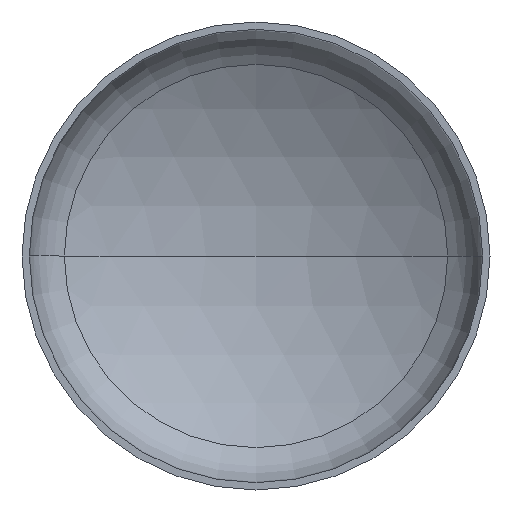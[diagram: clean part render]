
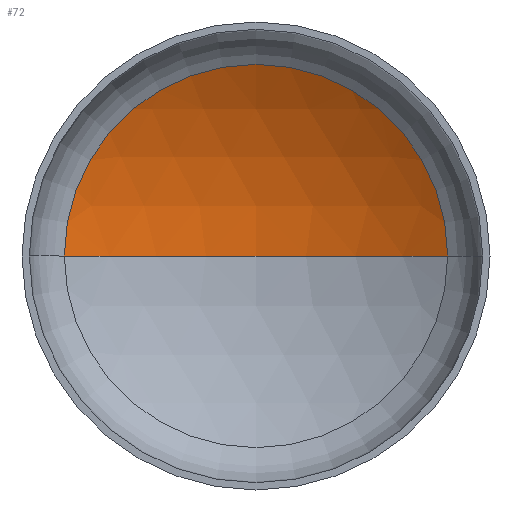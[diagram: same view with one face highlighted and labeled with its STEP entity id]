
A CAD part, front view. The second image highlights one B-rep face of the part: STEP entity #72.
In plain terms, the highlighted spherical face has radius 2400 mm.
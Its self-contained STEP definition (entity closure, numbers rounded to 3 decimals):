
#6 = VERTEX_POINT ( 'NONE', #274 ) ;
#18 = CARTESIAN_POINT ( 'NONE',  ( 1228.454, 545.173, 0. ) ) ;
#21 = DIRECTION ( 'NONE',  ( 0., 0., -1. ) ) ;
#27 = EDGE_LOOP ( 'NONE', ( #126, #200, #60 ) ) ;
#35 = CARTESIAN_POINT ( 'NONE',  ( 0., -1516.599, 0. ) ) ;
#41 = AXIS2_PLACEMENT_3D ( 'NONE', #223, #224, #234 ) ;
#45 = AXIS2_PLACEMENT_3D ( 'NONE', #35, #21, #255 ) ;
#46 = VERTEX_POINT ( 'NONE', #373 ) ;
#53 = AXIS2_PLACEMENT_3D ( 'NONE', #215, #216, #217 ) ;
#60 = ORIENTED_EDGE ( 'NONE', *, *, #102, .T. ) ;
#72 = ADVANCED_FACE ( 'NONE', ( #77 ), #195, .F. ) ;
#77 = FACE_OUTER_BOUND ( 'NONE', #27, .T. ) ;
#78 = AXIS2_PLACEMENT_3D ( 'NONE', #365, #271, #266 ) ;
#102 = EDGE_CURVE ( 'NONE', #134, #6, #176, .T. ) ;
#126 = ORIENTED_EDGE ( 'NONE', *, *, #159, .F. ) ;
#134 = VERTEX_POINT ( 'NONE', #18 ) ;
#136 = EDGE_CURVE ( 'NONE', #46, #134, #292, .T. ) ;
#159 = EDGE_CURVE ( 'NONE', #46, #6, #167, .T. ) ;
#167 = CIRCLE ( 'NONE', #41, 2400. ) ;
#176 = CIRCLE ( 'NONE', #53, 1228.454 ) ;
#195 = SPHERICAL_SURFACE ( 'NONE', #78, 2400. ) ;
#200 = ORIENTED_EDGE ( 'NONE', *, *, #136, .T. ) ;
#215 = CARTESIAN_POINT ( 'NONE',  ( 0., 545.173, 0. ) ) ;
#216 = DIRECTION ( 'NONE',  ( 0., -1., 0. ) ) ;
#217 = DIRECTION ( 'NONE',  ( 1., 0., 0. ) ) ;
#223 = CARTESIAN_POINT ( 'NONE',  ( 0., -1516.599, 0. ) ) ;
#224 = DIRECTION ( 'NONE',  ( 0., 0., 1. ) ) ;
#234 = DIRECTION ( 'NONE',  ( 1., 0., 0. ) ) ;
#255 = DIRECTION ( 'NONE',  ( -1., 0., 0. ) ) ;
#266 = DIRECTION ( 'NONE',  ( -1., 0., 0. ) ) ;
#271 = DIRECTION ( 'NONE',  ( 0., 0., -1. ) ) ;
#274 = CARTESIAN_POINT ( 'NONE',  ( -1228.454, 545.173, 0. ) ) ;
#292 = CIRCLE ( 'NONE', #45, 2400. ) ;
#365 = CARTESIAN_POINT ( 'NONE',  ( 0., -1516.599, 0. ) ) ;
#373 = CARTESIAN_POINT ( 'NONE',  ( 0., 883.401, 0. ) ) ;
